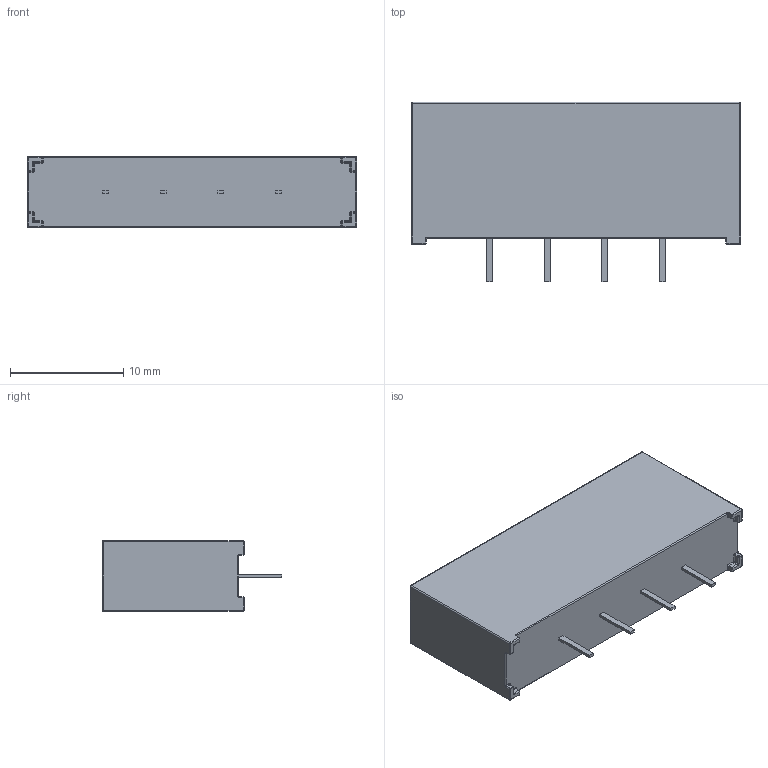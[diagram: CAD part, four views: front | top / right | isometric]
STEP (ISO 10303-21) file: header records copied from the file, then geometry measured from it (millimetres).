
FILE_DESCRIPTION (( 'STEP AP203' ), '1' );
FILE_NAME ('104-1-B.STEP', '2010-06-29T13:24:53', ( ' ' ), ( '' ), 'SwSTEP 2.0', 'SolidWorks 2009', '' );
FILE_SCHEMA (( 'CONFIG_CONTROL_DESIGN' ));
Length unit declared in the file: millimetre
Products named in the file (1): 104-1-B
Bounding box: 29 x 15.8 x 6.22 mm (x, y, z)
Volume: 2166.8 mm3; surface area: 1229.8 mm2
Topology: 1 solids, 1 shells, 797 faces, 2064 edges, 1316 vertices
Faces by surface type: plane 452, bspline 225, cylinder 72, sphere 28, torus 20
Entity records: 35981 total; most frequent: CARTESIAN_POINT 18047, ORIENTED_EDGE 4072, DIRECTION 2896, EDGE_CURVE 2036, VECTOR 1422, LINE 1422, VERTEX_POINT 1316, EDGE_LOOP 872
